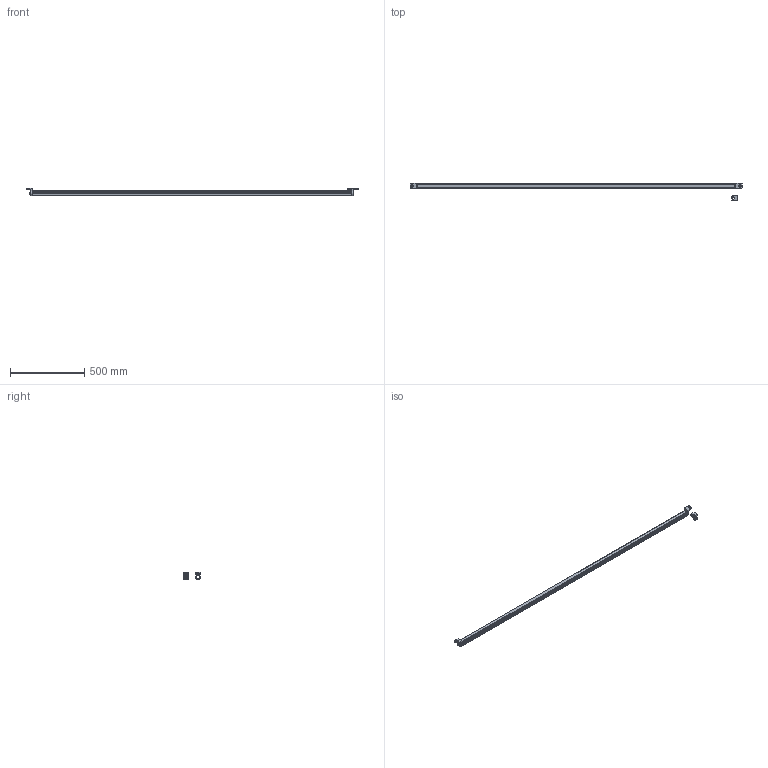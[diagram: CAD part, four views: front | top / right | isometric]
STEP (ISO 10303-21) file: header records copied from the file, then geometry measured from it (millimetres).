
FILE_DESCRIPTION((''),'2;1');
FILE_NAME('Solid_2100.stp','2007-11-16T11:34:03',(''),(''),'Mechanical Desktop 2008','Mechanical Desktop 2008',', , ');
FILE_SCHEMA(('CONFIG_CONTROL_DESIGN'));
Length unit declared in the file: millimetre
Products named in the file (9): SOLID; PROFIL VOLL; KAPPE; ~KAPPE; FRONTSCHEIBE; HALTER; ~HALTER; ~~HALTER; RM_SDB
Assembly tree (9 placements, depth 2):
  SOLID
    PROFIL VOLL
    KAPPE
    ~KAPPE
    FRONTSCHEIBE
    HALTER
    ~HALTER
    ~~HALTER
    RM_SDB  x2
Bounding box: 2239.97 x 115.8 x 51.28 mm (x, y, z)
Volume: 1907633.3 mm3; surface area: 430117.7 mm2
Topology: 7 solids, 7 shells, 213 faces, 557 edges, 370 vertices
Faces by surface type: plane 130, cone 44, cylinder 39
Entity records: 6828 total; most frequent: DIRECTION 1165, CARTESIAN_POINT 1158, ORIENTED_EDGE 1114, EDGE_CURVE 557, AXIS2_PLACEMENT_3D 389, VECTOR 387, LINE 387, VERTEX_POINT 370
